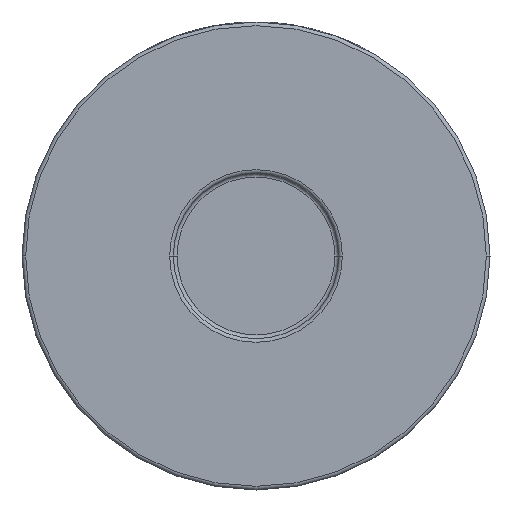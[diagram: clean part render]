
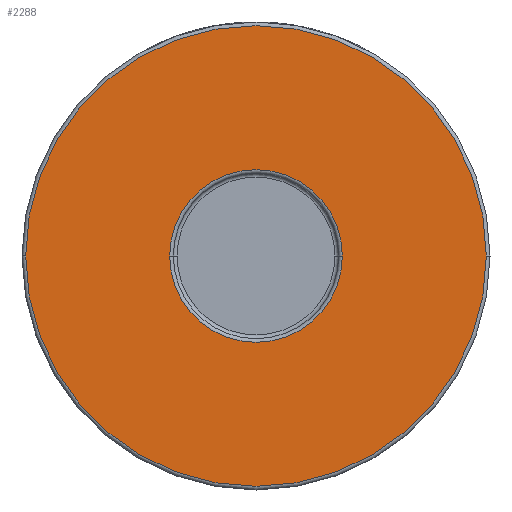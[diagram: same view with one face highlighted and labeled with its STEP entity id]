
A CAD part, front view. The second image highlights one B-rep face of the part: STEP entity #2288.
In plain terms, the highlighted planar face has unit normal (0, -1, 0).
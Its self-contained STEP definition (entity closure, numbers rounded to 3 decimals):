
#28 = VERTEX_POINT ( 'NONE', #3343 ) ;
#91 = DIRECTION ( 'NONE',  ( 0., -1., 0. ) ) ;
#104 = DIRECTION ( 'NONE',  ( 1., 0., 0. ) ) ;
#140 = CARTESIAN_POINT ( 'NONE',  ( 0., -45., 0. ) ) ;
#310 = AXIS2_PLACEMENT_3D ( 'NONE', #3371, #4503, #3829 ) ;
#332 = EDGE_CURVE ( 'NONE', #28, #4335, #4694, .T. ) ;
#451 = VERTEX_POINT ( 'NONE', #2126 ) ;
#487 = DIRECTION ( 'NONE',  ( 1., 0., 0. ) ) ;
#637 = CARTESIAN_POINT ( 'NONE',  ( -63., -45., 0. ) ) ;
#800 = FACE_OUTER_BOUND ( 'NONE', #4686, .T. ) ;
#953 = ORIENTED_EDGE ( 'NONE', *, *, #4287, .T. ) ;
#1180 = CARTESIAN_POINT ( 'NONE',  ( 0., -45., 0. ) ) ;
#1231 = AXIS2_PLACEMENT_3D ( 'NONE', #4527, #1580, #104 ) ;
#1252 = DIRECTION ( 'NONE',  ( 1., 0., 0. ) ) ;
#1512 = EDGE_CURVE ( 'NONE', #4335, #28, #3513, .T. ) ;
#1580 = DIRECTION ( 'NONE',  ( 0., 1., 0. ) ) ;
#1613 = DIRECTION ( 'NONE',  ( 0., 1., 0. ) ) ;
#1661 = ORIENTED_EDGE ( 'NONE', *, *, #332, .T. ) ;
#1958 = EDGE_CURVE ( 'NONE', #451, #3234, #2405, .T. ) ;
#2089 = ORIENTED_EDGE ( 'NONE', *, *, #1512, .T. ) ;
#2126 = CARTESIAN_POINT ( 'NONE',  ( 63., -45., 0. ) ) ;
#2127 = AXIS2_PLACEMENT_3D ( 'NONE', #3390, #4136, #487 ) ;
#2288 = ADVANCED_FACE ( 'NONE', ( #2720, #800 ), #3801, .T. ) ;
#2405 = CIRCLE ( 'NONE', #310, 63. ) ;
#2666 = DIRECTION ( 'NONE',  ( 1., 0., 0. ) ) ;
#2677 = ORIENTED_EDGE ( 'NONE', *, *, #1958, .T. ) ;
#2720 = FACE_BOUND ( 'NONE', #4338, .T. ) ;
#3234 = VERTEX_POINT ( 'NONE', #637 ) ;
#3343 = CARTESIAN_POINT ( 'NONE',  ( -23.6, -45., 0. ) ) ;
#3371 = CARTESIAN_POINT ( 'NONE',  ( 0., -45., 0. ) ) ;
#3390 = CARTESIAN_POINT ( 'NONE',  ( 64., -45., 0. ) ) ;
#3397 = AXIS2_PLACEMENT_3D ( 'NONE', #1180, #91, #2666 ) ;
#3513 = CIRCLE ( 'NONE', #1231, 23.6 ) ;
#3801 = PLANE ( 'NONE',  #2127 ) ;
#3829 = DIRECTION ( 'NONE',  ( 1., 0., 0. ) ) ;
#4136 = DIRECTION ( 'NONE',  ( 0., -1., 0. ) ) ;
#4167 = CIRCLE ( 'NONE', #3397, 63. ) ;
#4225 = CARTESIAN_POINT ( 'NONE',  ( 23.6, -45., 0. ) ) ;
#4229 = AXIS2_PLACEMENT_3D ( 'NONE', #140, #1613, #1252 ) ;
#4287 = EDGE_CURVE ( 'NONE', #3234, #451, #4167, .T. ) ;
#4335 = VERTEX_POINT ( 'NONE', #4225 ) ;
#4338 = EDGE_LOOP ( 'NONE', ( #2089, #1661 ) ) ;
#4503 = DIRECTION ( 'NONE',  ( 0., -1., 0. ) ) ;
#4527 = CARTESIAN_POINT ( 'NONE',  ( 0., -45., 0. ) ) ;
#4686 = EDGE_LOOP ( 'NONE', ( #2677, #953 ) ) ;
#4694 = CIRCLE ( 'NONE', #4229, 23.6 ) ;
